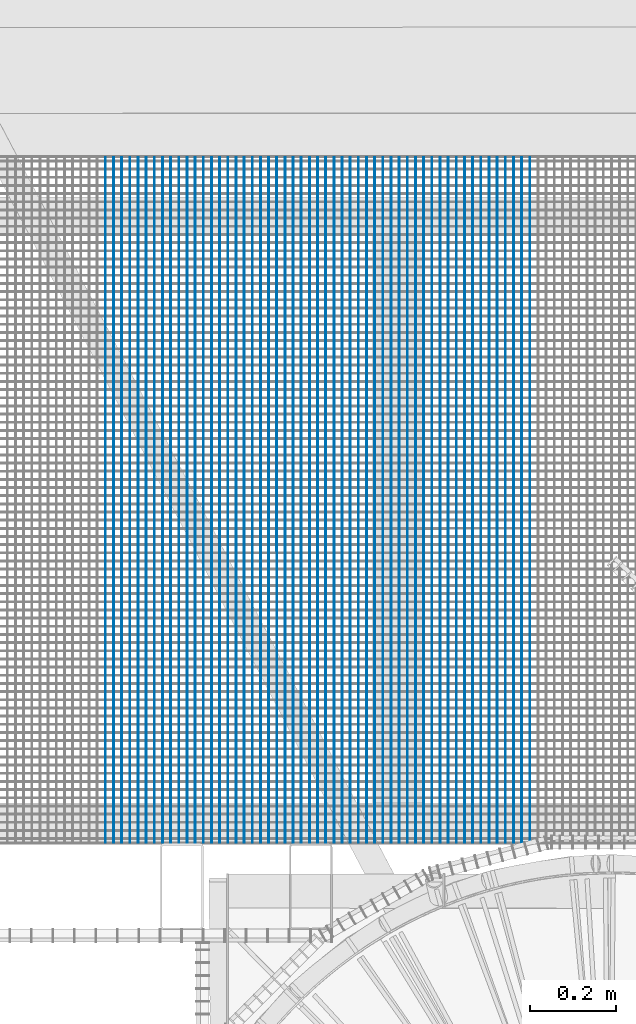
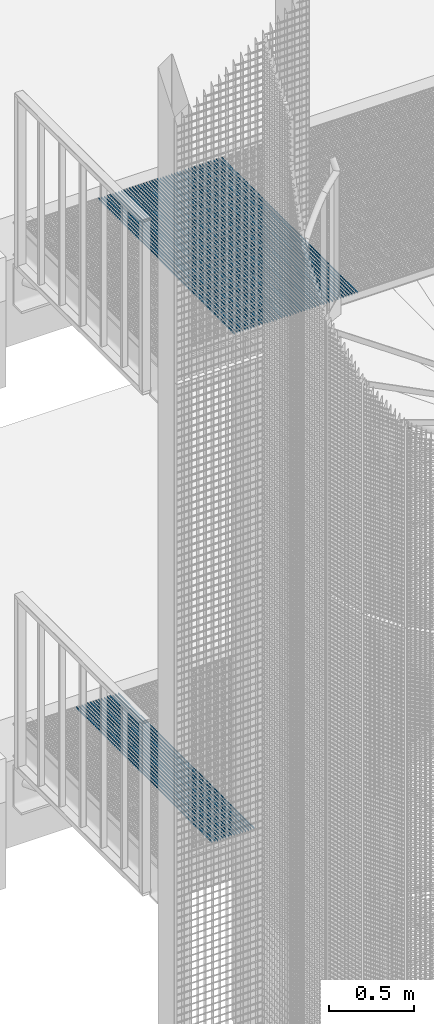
# One storey, part 95 of 1183: 61 beams, 2 elements without a shape of their own.
"""IFC2X3 building model written with IfcOpenShell, lengths in millimetres."""

from ifc_helpers import new_model, si_unit, frame, origin_with_axes, origin_2d_with_axis, place, context, subcontext, project, spatial, rectangle, extrude, material, type_object, element, aggregate, save


model = new_model("IFC2X3")

# Units and contexts
model_context = context("Model", 3, precision=1e-05, world=origin_with_axes())
body_context = subcontext(model_context, "Body", "Model", "MODEL_VIEW")
ifc_project = project(units=[si_unit("LENGTHUNIT", "METRE", prefix="MILLI"), si_unit("AREAUNIT", "SQUARE_METRE"), si_unit("VOLUMEUNIT", "CUBIC_METRE"), si_unit("MASSUNIT", "GRAM", prefix="KILO"), si_unit("TIMEUNIT", "SECOND"), si_unit("PLANEANGLEUNIT", "RADIAN"), si_unit("SOLIDANGLEUNIT", "STERADIAN"), si_unit("THERMODYNAMICTEMPERATUREUNIT", "DEGREE_CELSIUS"), si_unit("LUMINOUSINTENSITYUNIT", "LUMEN")], contexts=[model_context])

# Site, building, storey
site_placement = place(None, origin_with_axes())
site = spatial("IfcSite", under=ifc_project, at=site_placement, Name="Undefined", CompositionType="ELEMENT")
building_placement = place(site_placement, origin_with_axes())
building = spatial("IfcBuilding", under=site, at=building_placement, Name="Undefined", CompositionType="ELEMENT")
storey_placement = place(building_placement, origin_with_axes())
storey = spatial("IfcBuildingStorey", under=building, at=storey_placement, Name="Undefined", CompositionType="ELEMENT", Elevation=0.0)

# Assembly, beams
assembly_1_placement = place(storey_placement, origin_with_axes())
assembly_1 = element("IfcElementAssembly", 1, at=assembly_1_placement, inside=storey, Name="BORDURE", AssemblyPlace="NOTDEFINED", PredefinedType="NOTDEFINED")
ifc_material = material(Name="STEEL/S235JR")
beam_type = type_object("IfcBeamType", Name="PL2*10", PredefinedType="NOTDEFINED")
beam_1_placement = place(assembly_1_placement, frame((20574.1154247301, 1101.99726905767, 10085.0), z_axis=(0.0, 0.0, 1.0), x_axis=(-4.50599999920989e-06, 0.999999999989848, 0.0)))
beam_1 = element("IfcBeam", 2, at=beam_1_placement, type_object=beam_type, material=ifc_material, Name="ENTRETOISE", context=body_context, shape_type="SweptSolid", body=[
    extrude(rectangle(XDim=2.0, YDim=10.0, at=origin_2d_with_axis()), frame((1596.0000000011, -1.35186458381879e-18, -7.27595761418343e-12), z_axis=(-1.0, 0.0, 0.0), x_axis=(0.0, -1.0, 0.0)), (0.0, 0.0, 1.0), 1596.0),
])
beam_2_placement = place(assembly_1_placement, frame((20593.1154247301, 1101.99736257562, 10085.0), z_axis=(0.0, 0.0, 1.0), x_axis=(-4.50599999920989e-06, 0.999999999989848, 0.0)))
beam_2 = element("IfcBeam", 3, at=beam_2_placement, type_object=beam_type, material=ifc_material, Name="ENTRETOISE", context=body_context, shape_type="SweptSolid", body=[
    extrude(rectangle(XDim=2.0, YDim=10.0, at=origin_2d_with_axis()), frame((1596.0000000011, -1.35186458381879e-18, -7.27595761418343e-12), z_axis=(-1.0, 0.0, 0.0), x_axis=(0.0, -1.0, 0.0)), (0.0, 0.0, 1.0), 1596.0),
])
beam_3_placement = place(assembly_1_placement, frame((20612.11542473, 1101.99745609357, 10085.0), z_axis=(0.0, 0.0, 1.0), x_axis=(-4.50599999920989e-06, 0.999999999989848, 0.0)))
beam_3 = element("IfcBeam", 4, at=beam_3_placement, type_object=beam_type, material=ifc_material, Name="ENTRETOISE", context=body_context, shape_type="SweptSolid", body=[
    extrude(rectangle(XDim=2.0, YDim=10.0, at=origin_2d_with_axis()), frame((1596.0000000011, -1.35186458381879e-18, -7.27595761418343e-12), z_axis=(-1.0, 0.0, 0.0), x_axis=(0.0, -1.0, 0.0)), (0.0, 0.0, 1.0), 1596.0),
])
beam_4_placement = place(assembly_1_placement, frame((20631.1154247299, 1101.99754961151, 10085.0), z_axis=(0.0, 0.0, 1.0), x_axis=(-4.50599999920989e-06, 0.999999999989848, 0.0)))
beam_4 = element("IfcBeam", 5, at=beam_4_placement, type_object=beam_type, material=ifc_material, Name="ENTRETOISE", context=body_context, shape_type="SweptSolid", body=[
    extrude(rectangle(XDim=2.0, YDim=10.0, at=origin_2d_with_axis()), frame((1596.0000000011, -1.35186458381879e-18, -7.27595761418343e-12), z_axis=(-1.0, 0.0, 0.0), x_axis=(0.0, -1.0, 0.0)), (0.0, 0.0, 1.0), 1596.0),
])
beam_5_placement = place(assembly_1_placement, frame((20650.1154247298, 1101.99764312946, 10085.0), z_axis=(0.0, 0.0, 1.0), x_axis=(-4.50599999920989e-06, 0.999999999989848, 0.0)))
beam_5 = element("IfcBeam", 6, at=beam_5_placement, type_object=beam_type, material=ifc_material, Name="ENTRETOISE", context=body_context, shape_type="SweptSolid", body=[
    extrude(rectangle(XDim=2.0, YDim=10.0, at=origin_2d_with_axis()), frame((1596.0000000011, -1.35186458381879e-18, -7.27595761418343e-12), z_axis=(-1.0, 0.0, 0.0), x_axis=(0.0, -1.0, 0.0)), (0.0, 0.0, 1.0), 1596.0),
])
beam_6_placement = place(assembly_1_placement, frame((20669.1154247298, 1101.99773664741, 10085.0), z_axis=(0.0, 0.0, 1.0), x_axis=(-4.50599999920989e-06, 0.999999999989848, 0.0)))
beam_6 = element("IfcBeam", 7, at=beam_6_placement, type_object=beam_type, material=ifc_material, Name="ENTRETOISE", context=body_context, shape_type="SweptSolid", body=[
    extrude(rectangle(XDim=2.0, YDim=10.0, at=origin_2d_with_axis()), frame((1596.0000000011, -1.35186458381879e-18, -7.27595761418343e-12), z_axis=(-1.0, 0.0, 0.0), x_axis=(0.0, -1.0, 0.0)), (0.0, 0.0, 1.0), 1596.0),
])
beam_7_placement = place(assembly_1_placement, frame((20688.1154247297, 1101.99783016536, 10085.0), z_axis=(0.0, 0.0, 1.0), x_axis=(-4.50599999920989e-06, 0.999999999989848, 0.0)))
beam_7 = element("IfcBeam", 8, at=beam_7_placement, type_object=beam_type, material=ifc_material, Name="ENTRETOISE", context=body_context, shape_type="SweptSolid", body=[
    extrude(rectangle(XDim=2.0, YDim=10.0, at=origin_2d_with_axis()), frame((1596.0000000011, -1.35186458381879e-18, -7.27595761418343e-12), z_axis=(-1.0, 0.0, 0.0), x_axis=(0.0, -1.0, 0.0)), (0.0, 0.0, 1.0), 1596.0),
])
beam_8_placement = place(assembly_1_placement, frame((20707.1154247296, 1101.99792368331, 10085.0), z_axis=(0.0, 0.0, 1.0), x_axis=(-4.50599999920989e-06, 0.999999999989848, 0.0)))
beam_8 = element("IfcBeam", 9, at=beam_8_placement, type_object=beam_type, material=ifc_material, Name="ENTRETOISE", context=body_context, shape_type="SweptSolid", body=[
    extrude(rectangle(XDim=2.0, YDim=10.0, at=origin_2d_with_axis()), frame((1596.0000000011, -1.35186458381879e-18, -7.27595761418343e-12), z_axis=(-1.0, 0.0, 0.0), x_axis=(0.0, -1.0, 0.0)), (0.0, 0.0, 1.0), 1596.0),
])
beam_9_placement = place(assembly_1_placement, frame((20726.1154247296, 1101.99801720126, 10085.0), z_axis=(0.0, 0.0, 1.0), x_axis=(-4.50599999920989e-06, 0.999999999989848, 0.0)))
beam_9 = element("IfcBeam", 10, at=beam_9_placement, type_object=beam_type, material=ifc_material, Name="ENTRETOISE", context=body_context, shape_type="SweptSolid", body=[
    extrude(rectangle(XDim=2.0, YDim=10.0, at=origin_2d_with_axis()), frame((1596.0000000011, -1.35186458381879e-18, -7.27595761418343e-12), z_axis=(-1.0, 0.0, 0.0), x_axis=(0.0, -1.0, 0.0)), (0.0, 0.0, 1.0), 1596.0),
])
beam_10_placement = place(assembly_1_placement, frame((20745.1154247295, 1101.99811071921, 10085.0), z_axis=(0.0, 0.0, 1.0), x_axis=(-4.50599999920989e-06, 0.999999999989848, 0.0)))
beam_10 = element("IfcBeam", 11, at=beam_10_placement, type_object=beam_type, material=ifc_material, Name="ENTRETOISE", context=body_context, shape_type="SweptSolid", body=[
    extrude(rectangle(XDim=2.0, YDim=10.0, at=origin_2d_with_axis()), frame((1596.0000000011, -1.35186458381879e-18, -7.27595761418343e-12), z_axis=(-1.0, 0.0, 0.0), x_axis=(0.0, -1.0, 0.0)), (0.0, 0.0, 1.0), 1596.0),
])
beam_11_placement = place(assembly_1_placement, frame((20764.1154247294, 1101.99820423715, 10085.0), z_axis=(0.0, 0.0, 1.0), x_axis=(-4.50599999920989e-06, 0.999999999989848, 0.0)))
beam_11 = element("IfcBeam", 12, at=beam_11_placement, type_object=beam_type, material=ifc_material, Name="ENTRETOISE", context=body_context, shape_type="SweptSolid", body=[
    extrude(rectangle(XDim=2.0, YDim=10.0, at=origin_2d_with_axis()), frame((1596.0000000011, -1.35186458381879e-18, -7.27595761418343e-12), z_axis=(-1.0, 0.0, 0.0), x_axis=(0.0, -1.0, 0.0)), (0.0, 0.0, 1.0), 1596.0),
])
beam_12_placement = place(assembly_1_placement, frame((20783.1154247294, 1101.9982977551, 10085.0), z_axis=(0.0, 0.0, 1.0), x_axis=(-4.50599999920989e-06, 0.999999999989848, 0.0)))
beam_12 = element("IfcBeam", 13, at=beam_12_placement, type_object=beam_type, material=ifc_material, Name="ENTRETOISE", context=body_context, shape_type="SweptSolid", body=[
    extrude(rectangle(XDim=2.0, YDim=10.0, at=origin_2d_with_axis()), frame((1596.0000000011, -1.35186458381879e-18, -7.27595761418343e-12), z_axis=(-1.0, 0.0, 0.0), x_axis=(0.0, -1.0, 0.0)), (0.0, 0.0, 1.0), 1596.0),
])
beam_13_placement = place(assembly_1_placement, frame((20802.1154247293, 1101.99839127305, 10085.0), z_axis=(0.0, 0.0, 1.0), x_axis=(-4.50599999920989e-06, 0.999999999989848, 0.0)))
beam_13 = element("IfcBeam", 14, at=beam_13_placement, type_object=beam_type, material=ifc_material, Name="ENTRETOISE", context=body_context, shape_type="SweptSolid", body=[
    extrude(rectangle(XDim=2.0, YDim=10.0, at=origin_2d_with_axis()), frame((1596.0000000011, -1.35186458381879e-18, -7.27595761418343e-12), z_axis=(-1.0, 0.0, 0.0), x_axis=(0.0, -1.0, 0.0)), (0.0, 0.0, 1.0), 1596.0),
])
beam_14_placement = place(assembly_1_placement, frame((20821.1154247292, 1101.998484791, 10085.0), z_axis=(0.0, 0.0, 1.0), x_axis=(-4.50599999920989e-06, 0.999999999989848, 0.0)))
beam_14 = element("IfcBeam", 15, at=beam_14_placement, type_object=beam_type, material=ifc_material, Name="ENTRETOISE", context=body_context, shape_type="SweptSolid", body=[
    extrude(rectangle(XDim=2.0, YDim=10.0, at=origin_2d_with_axis()), frame((1596.0000000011, -1.35186458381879e-18, -7.27595761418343e-12), z_axis=(-1.0, 0.0, 0.0), x_axis=(0.0, -1.0, 0.0)), (0.0, 0.0, 1.0), 1596.0),
])
beam_15_placement = place(assembly_1_placement, frame((20840.1154247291, 1101.99857830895, 10085.0), z_axis=(0.0, 0.0, 1.0), x_axis=(-4.50599999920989e-06, 0.999999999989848, 0.0)))
beam_15 = element("IfcBeam", 16, at=beam_15_placement, type_object=beam_type, material=ifc_material, Name="ENTRETOISE", context=body_context, shape_type="SweptSolid", body=[
    extrude(rectangle(XDim=2.0, YDim=10.0, at=origin_2d_with_axis()), frame((1596.0000000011, -1.35186458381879e-18, -7.27595761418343e-12), z_axis=(-1.0, 0.0, 0.0), x_axis=(0.0, -1.0, 0.0)), (0.0, 0.0, 1.0), 1596.0),
])
beam_16_placement = place(assembly_1_placement, frame((20859.1154247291, 1101.9986718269, 10085.0), z_axis=(0.0, 0.0, 1.0), x_axis=(-4.50599999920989e-06, 0.999999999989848, 0.0)))
beam_16 = element("IfcBeam", 17, at=beam_16_placement, type_object=beam_type, material=ifc_material, Name="ENTRETOISE", context=body_context, shape_type="SweptSolid", body=[
    extrude(rectangle(XDim=2.0, YDim=10.0, at=origin_2d_with_axis()), frame((1596.0000000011, -1.35186458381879e-18, -7.27595761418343e-12), z_axis=(-1.0, 0.0, 0.0), x_axis=(0.0, -1.0, 0.0)), (0.0, 0.0, 1.0), 1596.0),
])
beam_17_placement = place(assembly_1_placement, frame((20878.115424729, 1101.99876534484, 10085.0), z_axis=(0.0, 0.0, 1.0), x_axis=(-4.50599999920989e-06, 0.999999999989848, 0.0)))
beam_17 = element("IfcBeam", 18, at=beam_17_placement, type_object=beam_type, material=ifc_material, Name="ENTRETOISE", context=body_context, shape_type="SweptSolid", body=[
    extrude(rectangle(XDim=2.0, YDim=10.0, at=origin_2d_with_axis()), frame((1596.0000000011, -1.35186458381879e-18, -7.27595761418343e-12), z_axis=(-1.0, 0.0, 0.0), x_axis=(0.0, -1.0, 0.0)), (0.0, 0.0, 1.0), 1596.0),
])
beam_18_placement = place(assembly_1_placement, frame((20897.1154247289, 1101.99885886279, 10085.0), z_axis=(0.0, 0.0, 1.0), x_axis=(-4.50599999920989e-06, 0.999999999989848, 0.0)))
beam_18 = element("IfcBeam", 19, at=beam_18_placement, type_object=beam_type, material=ifc_material, Name="ENTRETOISE", context=body_context, shape_type="SweptSolid", body=[
    extrude(rectangle(XDim=2.0, YDim=10.0, at=origin_2d_with_axis()), frame((1596.0000000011, -1.35186458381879e-18, -7.27595761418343e-12), z_axis=(-1.0, 0.0, 0.0), x_axis=(0.0, -1.0, 0.0)), (0.0, 0.0, 1.0), 1596.0),
])
beam_19_placement = place(assembly_1_placement, frame((20916.1154247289, 1101.99895238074, 10085.0), z_axis=(0.0, 0.0, 1.0), x_axis=(-4.50599999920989e-06, 0.999999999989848, 0.0)))
beam_19 = element("IfcBeam", 20, at=beam_19_placement, type_object=beam_type, material=ifc_material, Name="ENTRETOISE", context=body_context, shape_type="SweptSolid", body=[
    extrude(rectangle(XDim=2.0, YDim=10.0, at=origin_2d_with_axis()), frame((1596.0000000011, -1.35186458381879e-18, -7.27595761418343e-12), z_axis=(-1.0, 0.0, 0.0), x_axis=(0.0, -1.0, 0.0)), (0.0, 0.0, 1.0), 1596.0),
])
beam_20_placement = place(assembly_1_placement, frame((20935.1154247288, 1101.99904589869, 10085.0), z_axis=(0.0, 0.0, 1.0), x_axis=(-4.50599999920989e-06, 0.999999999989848, 0.0)))
beam_20 = element("IfcBeam", 21, at=beam_20_placement, type_object=beam_type, material=ifc_material, Name="ENTRETOISE", context=body_context, shape_type="SweptSolid", body=[
    extrude(rectangle(XDim=2.0, YDim=10.0, at=origin_2d_with_axis()), frame((1596.0000000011, -1.35186458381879e-18, -7.27595761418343e-12), z_axis=(-1.0, 0.0, 0.0), x_axis=(0.0, -1.0, 0.0)), (0.0, 0.0, 1.0), 1596.0),
])
beam_21_placement = place(assembly_1_placement, frame((20954.1154247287, 1101.99913941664, 10085.0), z_axis=(0.0, 0.0, 1.0), x_axis=(-4.50599999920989e-06, 0.999999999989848, 0.0)))
beam_21 = element("IfcBeam", 22, at=beam_21_placement, type_object=beam_type, material=ifc_material, Name="ENTRETOISE", context=body_context, shape_type="SweptSolid", body=[
    extrude(rectangle(XDim=2.0, YDim=10.0, at=origin_2d_with_axis()), frame((1596.0000000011, -1.35186458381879e-18, -7.27595761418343e-12), z_axis=(-1.0, 0.0, 0.0), x_axis=(0.0, -1.0, 0.0)), (0.0, 0.0, 1.0), 1596.0),
])
beam_22_placement = place(assembly_1_placement, frame((20973.1154247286, 1101.99923293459, 10085.0), z_axis=(0.0, 0.0, 1.0), x_axis=(-4.50599999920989e-06, 0.999999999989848, 0.0)))
beam_22 = element("IfcBeam", 23, at=beam_22_placement, type_object=beam_type, material=ifc_material, Name="ENTRETOISE", context=body_context, shape_type="SweptSolid", body=[
    extrude(rectangle(XDim=2.0, YDim=10.0, at=origin_2d_with_axis()), frame((1596.0000000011, -1.35186458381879e-18, -7.27595761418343e-12), z_axis=(-1.0, 0.0, 0.0), x_axis=(0.0, -1.0, 0.0)), (0.0, 0.0, 1.0), 1596.0),
])
beam_23_placement = place(assembly_1_placement, frame((20992.1154247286, 1101.99932645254, 10085.0), z_axis=(0.0, 0.0, 1.0), x_axis=(-4.50599999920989e-06, 0.999999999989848, 0.0)))
beam_23 = element("IfcBeam", 24, at=beam_23_placement, type_object=beam_type, material=ifc_material, Name="ENTRETOISE", context=body_context, shape_type="SweptSolid", body=[
    extrude(rectangle(XDim=2.0, YDim=10.0, at=origin_2d_with_axis()), frame((1596.0000000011, -1.35186458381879e-18, -7.27595761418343e-12), z_axis=(-1.0, 0.0, 0.0), x_axis=(0.0, -1.0, 0.0)), (0.0, 0.0, 1.0), 1596.0),
])
beam_24_placement = place(assembly_1_placement, frame((21011.1154247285, 1101.99941997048, 10085.0), z_axis=(0.0, 0.0, 1.0), x_axis=(-4.50599999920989e-06, 0.999999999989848, 0.0)))
beam_24 = element("IfcBeam", 25, at=beam_24_placement, type_object=beam_type, material=ifc_material, Name="ENTRETOISE", context=body_context, shape_type="SweptSolid", body=[
    extrude(rectangle(XDim=2.0, YDim=10.0, at=origin_2d_with_axis()), frame((1596.0000000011, -1.35186458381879e-18, -7.27595761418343e-12), z_axis=(-1.0, 0.0, 0.0), x_axis=(0.0, -1.0, 0.0)), (0.0, 0.0, 1.0), 1596.0),
])
beam_25_placement = place(assembly_1_placement, frame((21030.1154247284, 1101.99951348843, 10085.0), z_axis=(0.0, 0.0, 1.0), x_axis=(-4.50599999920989e-06, 0.999999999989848, 0.0)))
beam_25 = element("IfcBeam", 26, at=beam_25_placement, type_object=beam_type, material=ifc_material, Name="ENTRETOISE", context=body_context, shape_type="SweptSolid", body=[
    extrude(rectangle(XDim=2.0, YDim=10.0, at=origin_2d_with_axis()), frame((1596.0000000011, -1.35186458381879e-18, -7.27595761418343e-12), z_axis=(-1.0, 0.0, 0.0), x_axis=(0.0, -1.0, 0.0)), (0.0, 0.0, 1.0), 1596.0),
])
beam_26_placement = place(assembly_1_placement, frame((21049.1154247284, 1101.99960700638, 10085.0), z_axis=(0.0, 0.0, 1.0), x_axis=(-4.50599999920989e-06, 0.999999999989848, 0.0)))
beam_26 = element("IfcBeam", 27, at=beam_26_placement, type_object=beam_type, material=ifc_material, Name="ENTRETOISE", context=body_context, shape_type="SweptSolid", body=[
    extrude(rectangle(XDim=2.0, YDim=10.0, at=origin_2d_with_axis()), frame((1596.0000000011, -1.35186458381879e-18, -7.27595761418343e-12), z_axis=(-1.0, 0.0, 0.0), x_axis=(0.0, -1.0, 0.0)), (0.0, 0.0, 1.0), 1596.0),
])
beam_27_placement = place(assembly_1_placement, frame((21068.1154247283, 1101.99970052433, 10085.0), z_axis=(0.0, 0.0, 1.0), x_axis=(-4.50599999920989e-06, 0.999999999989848, 0.0)))
beam_27 = element("IfcBeam", 28, at=beam_27_placement, type_object=beam_type, material=ifc_material, Name="ENTRETOISE", context=body_context, shape_type="SweptSolid", body=[
    extrude(rectangle(XDim=2.0, YDim=10.0, at=origin_2d_with_axis()), frame((1596.0000000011, -1.35186458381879e-18, -7.27595761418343e-12), z_axis=(-1.0, 0.0, 0.0), x_axis=(0.0, -1.0, 0.0)), (0.0, 0.0, 1.0), 1596.0),
])
beam_28_placement = place(assembly_1_placement, frame((21087.1154247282, 1101.99979404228, 10085.0), z_axis=(0.0, 0.0, 1.0), x_axis=(-4.50599999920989e-06, 0.999999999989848, 0.0)))
beam_28 = element("IfcBeam", 29, at=beam_28_placement, type_object=beam_type, material=ifc_material, Name="ENTRETOISE", context=body_context, shape_type="SweptSolid", body=[
    extrude(rectangle(XDim=2.0, YDim=10.0, at=origin_2d_with_axis()), frame((1596.0000000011, -1.35186458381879e-18, -7.27595761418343e-12), z_axis=(-1.0, 0.0, 0.0), x_axis=(0.0, -1.0, 0.0)), (0.0, 0.0, 1.0), 1596.0),
])
beam_29_placement = place(assembly_1_placement, frame((21106.1154247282, 1101.99988756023, 10085.0), z_axis=(0.0, 0.0, 1.0), x_axis=(-4.50599999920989e-06, 0.999999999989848, 0.0)))
beam_29 = element("IfcBeam", 30, at=beam_29_placement, type_object=beam_type, material=ifc_material, Name="ENTRETOISE", context=body_context, shape_type="SweptSolid", body=[
    extrude(rectangle(XDim=2.0, YDim=10.0, at=origin_2d_with_axis()), frame((1596.0000000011, -1.35186458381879e-18, -7.27595761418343e-12), z_axis=(-1.0, 0.0, 0.0), x_axis=(0.0, -1.0, 0.0)), (0.0, 0.0, 1.0), 1596.0),
])
beam_30_placement = place(assembly_1_placement, frame((21125.1154247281, 1101.99998107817, 10085.0), z_axis=(0.0, 0.0, 1.0), x_axis=(-4.50599999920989e-06, 0.999999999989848, 0.0)))
beam_30 = element("IfcBeam", 31, at=beam_30_placement, type_object=beam_type, material=ifc_material, Name="ENTRETOISE", context=body_context, shape_type="SweptSolid", body=[
    extrude(rectangle(XDim=2.0, YDim=10.0, at=origin_2d_with_axis()), frame((1596.0000000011, -1.35186458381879e-18, -7.27595761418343e-12), z_axis=(-1.0, 0.0, 0.0), x_axis=(0.0, -1.0, 0.0)), (0.0, 0.0, 1.0), 1596.0),
])
beam_31_placement = place(assembly_1_placement, frame((21144.115424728, 1102.00007459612, 10085.0), z_axis=(0.0, 0.0, 1.0), x_axis=(-4.50599999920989e-06, 0.999999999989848, 0.0)))
beam_31 = element("IfcBeam", 32, at=beam_31_placement, type_object=beam_type, material=ifc_material, Name="ENTRETOISE", context=body_context, shape_type="SweptSolid", body=[
    extrude(rectangle(XDim=2.0, YDim=10.0, at=origin_2d_with_axis()), frame((1596.0000000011, -1.35186458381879e-18, -7.27595761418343e-12), z_axis=(-1.0, 0.0, 0.0), x_axis=(0.0, -1.0, 0.0)), (0.0, 0.0, 1.0), 1596.0),
])
beam_32_placement = place(assembly_1_placement, frame((21163.1154247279, 1102.00016811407, 10085.0), z_axis=(0.0, 0.0, 1.0), x_axis=(-4.50599999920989e-06, 0.999999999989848, 0.0)))
beam_32 = element("IfcBeam", 33, at=beam_32_placement, type_object=beam_type, material=ifc_material, Name="ENTRETOISE", context=body_context, shape_type="SweptSolid", body=[
    extrude(rectangle(XDim=2.0, YDim=10.0, at=origin_2d_with_axis()), frame((1596.0000000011, -1.35186458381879e-18, -7.27595761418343e-12), z_axis=(-1.0, 0.0, 0.0), x_axis=(0.0, -1.0, 0.0)), (0.0, 0.0, 1.0), 1596.0),
])
beam_33_placement = place(assembly_1_placement, frame((21182.1154247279, 1102.00026163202, 10085.0), z_axis=(0.0, 0.0, 1.0), x_axis=(-4.50599999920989e-06, 0.999999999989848, 0.0)))
beam_33 = element("IfcBeam", 34, at=beam_33_placement, type_object=beam_type, material=ifc_material, Name="ENTRETOISE", context=body_context, shape_type="SweptSolid", body=[
    extrude(rectangle(XDim=2.0, YDim=10.0, at=origin_2d_with_axis()), frame((1596.0000000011, -1.35186458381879e-18, -7.27595761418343e-12), z_axis=(-1.0, 0.0, 0.0), x_axis=(0.0, -1.0, 0.0)), (0.0, 0.0, 1.0), 1596.0),
])
beam_34_placement = place(assembly_1_placement, frame((21201.1154247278, 1102.00035514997, 10085.0), z_axis=(0.0, 0.0, 1.0), x_axis=(-4.50599999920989e-06, 0.999999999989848, 0.0)))
beam_34 = element("IfcBeam", 35, at=beam_34_placement, type_object=beam_type, material=ifc_material, Name="ENTRETOISE", context=body_context, shape_type="SweptSolid", body=[
    extrude(rectangle(XDim=2.0, YDim=10.0, at=origin_2d_with_axis()), frame((1596.0000000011, -1.35186458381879e-18, -7.27595761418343e-12), z_axis=(-1.0, 0.0, 0.0), x_axis=(0.0, -1.0, 0.0)), (0.0, 0.0, 1.0), 1596.0),
])
beam_35_placement = place(assembly_1_placement, frame((21220.1154247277, 1102.00044866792, 10085.0), z_axis=(0.0, 0.0, 1.0), x_axis=(-4.50599999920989e-06, 0.999999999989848, 0.0)))
beam_35 = element("IfcBeam", 36, at=beam_35_placement, type_object=beam_type, material=ifc_material, Name="ENTRETOISE", context=body_context, shape_type="SweptSolid", body=[
    extrude(rectangle(XDim=2.0, YDim=10.0, at=origin_2d_with_axis()), frame((1596.0000000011, -1.35186458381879e-18, -7.27595761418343e-12), z_axis=(-1.0, 0.0, 0.0), x_axis=(0.0, -1.0, 0.0)), (0.0, 0.0, 1.0), 1596.0),
])
beam_36_placement = place(assembly_1_placement, frame((21239.1154247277, 1102.00054218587, 10085.0), z_axis=(0.0, 0.0, 1.0), x_axis=(-4.50599999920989e-06, 0.999999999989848, 0.0)))
beam_36 = element("IfcBeam", 37, at=beam_36_placement, type_object=beam_type, material=ifc_material, Name="ENTRETOISE", context=body_context, shape_type="SweptSolid", body=[
    extrude(rectangle(XDim=2.0, YDim=10.0, at=origin_2d_with_axis()), frame((1596.0000000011, -1.35186458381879e-18, -7.27595761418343e-12), z_axis=(-1.0, 0.0, 0.0), x_axis=(0.0, -1.0, 0.0)), (0.0, 0.0, 1.0), 1596.0),
])
beam_37_placement = place(assembly_1_placement, frame((21258.1154247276, 1102.00063570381, 10085.0), z_axis=(0.0, 0.0, 1.0), x_axis=(-4.50599999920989e-06, 0.999999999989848, 0.0)))
beam_37 = element("IfcBeam", 38, at=beam_37_placement, type_object=beam_type, material=ifc_material, Name="ENTRETOISE", context=body_context, shape_type="SweptSolid", body=[
    extrude(rectangle(XDim=2.0, YDim=10.0, at=origin_2d_with_axis()), frame((1596.0000000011, -1.35186458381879e-18, -7.27595761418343e-12), z_axis=(-1.0, 0.0, 0.0), x_axis=(0.0, -1.0, 0.0)), (0.0, 0.0, 1.0), 1596.0),
])
beam_38_placement = place(assembly_1_placement, frame((21277.1154247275, 1102.00072922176, 10085.0), z_axis=(0.0, 0.0, 1.0), x_axis=(-4.50599999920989e-06, 0.999999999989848, 0.0)))
beam_38 = element("IfcBeam", 39, at=beam_38_placement, type_object=beam_type, material=ifc_material, Name="ENTRETOISE", context=body_context, shape_type="SweptSolid", body=[
    extrude(rectangle(XDim=2.0, YDim=10.0, at=origin_2d_with_axis()), frame((1596.0000000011, -1.35186458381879e-18, -7.27595761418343e-12), z_axis=(-1.0, 0.0, 0.0), x_axis=(0.0, -1.0, 0.0)), (0.0, 0.0, 1.0), 1596.0),
])
beam_39_placement = place(assembly_1_placement, frame((21296.1154247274, 1102.00082273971, 10085.0), z_axis=(0.0, 0.0, 1.0), x_axis=(-4.50599999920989e-06, 0.999999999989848, 0.0)))
beam_39 = element("IfcBeam", 40, at=beam_39_placement, type_object=beam_type, material=ifc_material, Name="ENTRETOISE", context=body_context, shape_type="SweptSolid", body=[
    extrude(rectangle(XDim=2.0, YDim=10.0, at=origin_2d_with_axis()), frame((1596.0000000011, -1.35186458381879e-18, -7.27595761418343e-12), z_axis=(-1.0, 0.0, 0.0), x_axis=(0.0, -1.0, 0.0)), (0.0, 0.0, 1.0), 1596.0),
])
beam_40_placement = place(assembly_1_placement, frame((21315.1154247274, 1102.00091625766, 10085.0), z_axis=(0.0, 0.0, 1.0), x_axis=(-4.50599999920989e-06, 0.999999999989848, 0.0)))
beam_40 = element("IfcBeam", 41, at=beam_40_placement, type_object=beam_type, material=ifc_material, Name="ENTRETOISE", context=body_context, shape_type="SweptSolid", body=[
    extrude(rectangle(XDim=2.0, YDim=10.0, at=origin_2d_with_axis()), frame((1596.0000000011, -1.35186458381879e-18, -7.27595761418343e-12), z_axis=(-1.0, 0.0, 0.0), x_axis=(0.0, -1.0, 0.0)), (0.0, 0.0, 1.0), 1596.0),
])
beam_41_placement = place(assembly_1_placement, frame((21334.1154247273, 1102.00100977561, 10085.0), z_axis=(0.0, 0.0, 1.0), x_axis=(-4.50599999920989e-06, 0.999999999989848, 0.0)))
beam_41 = element("IfcBeam", 42, at=beam_41_placement, type_object=beam_type, material=ifc_material, Name="ENTRETOISE", context=body_context, shape_type="SweptSolid", body=[
    extrude(rectangle(XDim=2.0, YDim=10.0, at=origin_2d_with_axis()), frame((1596.0000000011, -1.35186458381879e-18, -7.27595761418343e-12), z_axis=(-1.0, 0.0, 0.0), x_axis=(0.0, -1.0, 0.0)), (0.0, 0.0, 1.0), 1596.0),
])
beam_42_placement = place(assembly_1_placement, frame((21353.1154247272, 1102.00110329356, 10085.0), z_axis=(0.0, 0.0, 1.0), x_axis=(-4.50599999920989e-06, 0.999999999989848, 0.0)))
beam_42 = element("IfcBeam", 43, at=beam_42_placement, type_object=beam_type, material=ifc_material, Name="ENTRETOISE", context=body_context, shape_type="SweptSolid", body=[
    extrude(rectangle(XDim=2.0, YDim=10.0, at=origin_2d_with_axis()), frame((1596.0000000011, -1.35186458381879e-18, -7.27595761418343e-12), z_axis=(-1.0, 0.0, 0.0), x_axis=(0.0, -1.0, 0.0)), (0.0, 0.0, 1.0), 1596.0),
])
beam_43_placement = place(assembly_1_placement, frame((21372.1154247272, 1102.0011968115, 10085.0), z_axis=(0.0, 0.0, 1.0), x_axis=(-4.50599999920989e-06, 0.999999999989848, 0.0)))
beam_43 = element("IfcBeam", 44, at=beam_43_placement, type_object=beam_type, material=ifc_material, Name="ENTRETOISE", context=body_context, shape_type="SweptSolid", body=[
    extrude(rectangle(XDim=2.0, YDim=10.0, at=origin_2d_with_axis()), frame((1596.0000000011, -1.35186458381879e-18, -7.27595761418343e-12), z_axis=(-1.0, 0.0, 0.0), x_axis=(0.0, -1.0, 0.0)), (0.0, 0.0, 1.0), 1596.0),
])
beam_44_placement = place(assembly_1_placement, frame((21391.1154247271, 1102.00129032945, 10085.0), z_axis=(0.0, 0.0, 1.0), x_axis=(-4.50599999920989e-06, 0.999999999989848, 0.0)))
beam_44 = element("IfcBeam", 45, at=beam_44_placement, type_object=beam_type, material=ifc_material, Name="ENTRETOISE", context=body_context, shape_type="SweptSolid", body=[
    extrude(rectangle(XDim=2.0, YDim=10.0, at=origin_2d_with_axis()), frame((1596.0000000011, -1.35186458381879e-18, -7.27595761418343e-12), z_axis=(-1.0, 0.0, 0.0), x_axis=(0.0, -1.0, 0.0)), (0.0, 0.0, 1.0), 1596.0),
])
beam_45_placement = place(assembly_1_placement, frame((21410.115424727, 1102.0013838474, 10085.0), z_axis=(0.0, 0.0, 1.0), x_axis=(-4.50599999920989e-06, 0.999999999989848, 0.0)))
beam_45 = element("IfcBeam", 46, at=beam_45_placement, type_object=beam_type, material=ifc_material, Name="ENTRETOISE", context=body_context, shape_type="SweptSolid", body=[
    extrude(rectangle(XDim=2.0, YDim=10.0, at=origin_2d_with_axis()), frame((1596.0000000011, -1.35186458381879e-18, -7.27595761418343e-12), z_axis=(-1.0, 0.0, 0.0), x_axis=(0.0, -1.0, 0.0)), (0.0, 0.0, 1.0), 1596.0),
])
aggregate(assembly_1, [beam_1, beam_2, beam_3, beam_4, beam_5, beam_6, beam_7, beam_8, beam_9, beam_10, beam_11, beam_12, beam_13, beam_14, beam_15, beam_16, beam_17, beam_18, beam_19, beam_20, beam_21, beam_22, beam_23, beam_24, beam_25, beam_26, beam_27, beam_28, beam_29, beam_30, beam_31, beam_32, beam_33, beam_34, beam_35, beam_36, beam_37, beam_38, beam_39, beam_40, beam_41, beam_42, beam_43, beam_44, beam_45])

assembly_2_placement = place(storey_placement, origin_with_axes())
assembly_2 = element("IfcElementAssembly", 47, at=assembly_2_placement, inside=storey, Name="BORDURE", AssemblyPlace="NOTDEFINED", PredefinedType="NOTDEFINED")
beam_46_placement = place(assembly_2_placement, frame((20422.1154247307, 1101.99652091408, 6485.0), z_axis=(0.0, 0.0, 1.0), x_axis=(-4.50599999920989e-06, 0.999999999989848, 0.0)))
beam_46 = element("IfcBeam", 48, at=beam_46_placement, type_object=beam_type, material=ifc_material, Name="ENTRETOISE", context=body_context, shape_type="SweptSolid", body=[
    extrude(rectangle(XDim=2.0, YDim=10.0, at=origin_2d_with_axis()), frame((1596.0000000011, -1.35186458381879e-18, -7.27595761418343e-12), z_axis=(-1.0, 0.0, 0.0), x_axis=(0.0, -1.0, 0.0)), (0.0, 0.0, 1.0), 1596.0),
])
beam_47_placement = place(assembly_2_placement, frame((20441.1154247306, 1101.99661443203, 6485.0), z_axis=(0.0, 0.0, 1.0), x_axis=(-4.50599999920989e-06, 0.999999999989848, 0.0)))
beam_47 = element("IfcBeam", 49, at=beam_47_placement, type_object=beam_type, material=ifc_material, Name="ENTRETOISE", context=body_context, shape_type="SweptSolid", body=[
    extrude(rectangle(XDim=2.0, YDim=10.0, at=origin_2d_with_axis()), frame((1596.0000000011, -1.35186458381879e-18, -7.27595761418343e-12), z_axis=(-1.0, 0.0, 0.0), x_axis=(0.0, -1.0, 0.0)), (0.0, 0.0, 1.0), 1596.0),
])
beam_48_placement = place(assembly_2_placement, frame((20460.1154247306, 1101.99670794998, 6485.0), z_axis=(0.0, 0.0, 1.0), x_axis=(-4.50599999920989e-06, 0.999999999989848, 0.0)))
beam_48 = element("IfcBeam", 50, at=beam_48_placement, type_object=beam_type, material=ifc_material, Name="ENTRETOISE", context=body_context, shape_type="SweptSolid", body=[
    extrude(rectangle(XDim=2.0, YDim=10.0, at=origin_2d_with_axis()), frame((1596.0000000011, -1.35186458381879e-18, -7.27595761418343e-12), z_axis=(-1.0, 0.0, 0.0), x_axis=(0.0, -1.0, 0.0)), (0.0, 0.0, 1.0), 1596.0),
])
beam_49_placement = place(assembly_2_placement, frame((20479.1154247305, 1101.99680146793, 6485.0), z_axis=(0.0, 0.0, 1.0), x_axis=(-4.50599999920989e-06, 0.999999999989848, 0.0)))
beam_49 = element("IfcBeam", 51, at=beam_49_placement, type_object=beam_type, material=ifc_material, Name="ENTRETOISE", context=body_context, shape_type="SweptSolid", body=[
    extrude(rectangle(XDim=2.0, YDim=10.0, at=origin_2d_with_axis()), frame((1596.0000000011, -1.35186458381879e-18, -7.27595761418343e-12), z_axis=(-1.0, 0.0, 0.0), x_axis=(0.0, -1.0, 0.0)), (0.0, 0.0, 1.0), 1596.0),
])
beam_50_placement = place(assembly_2_placement, frame((20498.1154247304, 1101.99689498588, 6485.0), z_axis=(0.0, 0.0, 1.0), x_axis=(-4.50599999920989e-06, 0.999999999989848, 0.0)))
beam_50 = element("IfcBeam", 52, at=beam_50_placement, type_object=beam_type, material=ifc_material, Name="ENTRETOISE", context=body_context, shape_type="SweptSolid", body=[
    extrude(rectangle(XDim=2.0, YDim=10.0, at=origin_2d_with_axis()), frame((1596.0000000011, -1.35186458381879e-18, -7.27595761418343e-12), z_axis=(-1.0, 0.0, 0.0), x_axis=(0.0, -1.0, 0.0)), (0.0, 0.0, 1.0), 1596.0),
])
beam_51_placement = place(assembly_2_placement, frame((20517.1154247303, 1101.99698850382, 6485.0), z_axis=(0.0, 0.0, 1.0), x_axis=(-4.50599999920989e-06, 0.999999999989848, 0.0)))
beam_51 = element("IfcBeam", 53, at=beam_51_placement, type_object=beam_type, material=ifc_material, Name="ENTRETOISE", context=body_context, shape_type="SweptSolid", body=[
    extrude(rectangle(XDim=2.0, YDim=10.0, at=origin_2d_with_axis()), frame((1596.0000000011, -1.35186458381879e-18, -7.27595761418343e-12), z_axis=(-1.0, 0.0, 0.0), x_axis=(0.0, -1.0, 0.0)), (0.0, 0.0, 1.0), 1596.0),
])
beam_52_placement = place(assembly_2_placement, frame((20536.1154247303, 1101.99708202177, 6485.0), z_axis=(0.0, 0.0, 1.0), x_axis=(-4.50599999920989e-06, 0.999999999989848, 0.0)))
beam_52 = element("IfcBeam", 54, at=beam_52_placement, type_object=beam_type, material=ifc_material, Name="ENTRETOISE", context=body_context, shape_type="SweptSolid", body=[
    extrude(rectangle(XDim=2.0, YDim=10.0, at=origin_2d_with_axis()), frame((1596.0000000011, -1.35186458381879e-18, -7.27595761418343e-12), z_axis=(-1.0, 0.0, 0.0), x_axis=(0.0, -1.0, 0.0)), (0.0, 0.0, 1.0), 1596.0),
])
beam_53_placement = place(assembly_2_placement, frame((20555.1154247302, 1101.99717553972, 6485.0), z_axis=(0.0, 0.0, 1.0), x_axis=(-4.50599999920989e-06, 0.999999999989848, 0.0)))
beam_53 = element("IfcBeam", 55, at=beam_53_placement, type_object=beam_type, material=ifc_material, Name="ENTRETOISE", context=body_context, shape_type="SweptSolid", body=[
    extrude(rectangle(XDim=2.0, YDim=10.0, at=origin_2d_with_axis()), frame((1596.0000000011, -1.35186458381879e-18, -7.27595761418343e-12), z_axis=(-1.0, 0.0, 0.0), x_axis=(0.0, -1.0, 0.0)), (0.0, 0.0, 1.0), 1596.0),
])
beam_54_placement = place(assembly_2_placement, frame((20574.1154247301, 1101.99726905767, 6485.0), z_axis=(0.0, 0.0, 1.0), x_axis=(-4.50599999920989e-06, 0.999999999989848, 0.0)))
beam_54 = element("IfcBeam", 56, at=beam_54_placement, type_object=beam_type, material=ifc_material, Name="ENTRETOISE", context=body_context, shape_type="SweptSolid", body=[
    extrude(rectangle(XDim=2.0, YDim=10.0, at=origin_2d_with_axis()), frame((1596.0000000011, -1.35186458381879e-18, -7.27595761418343e-12), z_axis=(-1.0, 0.0, 0.0), x_axis=(0.0, -1.0, 0.0)), (0.0, 0.0, 1.0), 1596.0),
])
beam_55_placement = place(assembly_2_placement, frame((20593.1154247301, 1101.99736257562, 6485.0), z_axis=(0.0, 0.0, 1.0), x_axis=(-4.50599999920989e-06, 0.999999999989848, 0.0)))
beam_55 = element("IfcBeam", 57, at=beam_55_placement, type_object=beam_type, material=ifc_material, Name="ENTRETOISE", context=body_context, shape_type="SweptSolid", body=[
    extrude(rectangle(XDim=2.0, YDim=10.0, at=origin_2d_with_axis()), frame((1596.0000000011, -1.35186458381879e-18, -7.27595761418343e-12), z_axis=(-1.0, 0.0, 0.0), x_axis=(0.0, -1.0, 0.0)), (0.0, 0.0, 1.0), 1596.0),
])
beam_56_placement = place(assembly_2_placement, frame((20612.11542473, 1101.99745609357, 6485.0), z_axis=(0.0, 0.0, 1.0), x_axis=(-4.50599999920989e-06, 0.999999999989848, 0.0)))
beam_56 = element("IfcBeam", 58, at=beam_56_placement, type_object=beam_type, material=ifc_material, Name="ENTRETOISE", context=body_context, shape_type="SweptSolid", body=[
    extrude(rectangle(XDim=2.0, YDim=10.0, at=origin_2d_with_axis()), frame((1596.0000000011, -1.35186458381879e-18, -7.27595761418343e-12), z_axis=(-1.0, 0.0, 0.0), x_axis=(0.0, -1.0, 0.0)), (0.0, 0.0, 1.0), 1596.0),
])
beam_57_placement = place(assembly_2_placement, frame((20631.1154247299, 1101.99754961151, 6485.0), z_axis=(0.0, 0.0, 1.0), x_axis=(-4.50599999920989e-06, 0.999999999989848, 0.0)))
beam_57 = element("IfcBeam", 59, at=beam_57_placement, type_object=beam_type, material=ifc_material, Name="ENTRETOISE", context=body_context, shape_type="SweptSolid", body=[
    extrude(rectangle(XDim=2.0, YDim=10.0, at=origin_2d_with_axis()), frame((1596.0000000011, -1.35186458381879e-18, -7.27595761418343e-12), z_axis=(-1.0, 0.0, 0.0), x_axis=(0.0, -1.0, 0.0)), (0.0, 0.0, 1.0), 1596.0),
])
beam_58_placement = place(assembly_2_placement, frame((20650.1154247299, 1101.99764312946, 6485.0), z_axis=(0.0, 0.0, 1.0), x_axis=(-4.50599999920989e-06, 0.999999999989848, 0.0)))
beam_58 = element("IfcBeam", 60, at=beam_58_placement, type_object=beam_type, material=ifc_material, Name="ENTRETOISE", context=body_context, shape_type="SweptSolid", body=[
    extrude(rectangle(XDim=2.0, YDim=10.0, at=origin_2d_with_axis()), frame((1596.0000000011, -1.35186458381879e-18, -7.27595761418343e-12), z_axis=(-1.0, 0.0, 0.0), x_axis=(0.0, -1.0, 0.0)), (0.0, 0.0, 1.0), 1596.0),
])
beam_59_placement = place(assembly_2_placement, frame((20669.1154247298, 1101.99773664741, 6485.0), z_axis=(0.0, 0.0, 1.0), x_axis=(-4.50599999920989e-06, 0.999999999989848, 0.0)))
beam_59 = element("IfcBeam", 61, at=beam_59_placement, type_object=beam_type, material=ifc_material, Name="ENTRETOISE", context=body_context, shape_type="SweptSolid", body=[
    extrude(rectangle(XDim=2.0, YDim=10.0, at=origin_2d_with_axis()), frame((1596.0000000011, -1.35186458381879e-18, -7.27595761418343e-12), z_axis=(-1.0, 0.0, 0.0), x_axis=(0.0, -1.0, 0.0)), (0.0, 0.0, 1.0), 1596.0),
])
beam_60_placement = place(assembly_2_placement, frame((20688.1154247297, 1101.99783016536, 6485.0), z_axis=(0.0, 0.0, 1.0), x_axis=(-4.50599999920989e-06, 0.999999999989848, 0.0)))
beam_60 = element("IfcBeam", 62, at=beam_60_placement, type_object=beam_type, material=ifc_material, Name="ENTRETOISE", context=body_context, shape_type="SweptSolid", body=[
    extrude(rectangle(XDim=2.0, YDim=10.0, at=origin_2d_with_axis()), frame((1596.0000000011, -1.35186458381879e-18, -7.27595761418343e-12), z_axis=(-1.0, 0.0, 0.0), x_axis=(0.0, -1.0, 0.0)), (0.0, 0.0, 1.0), 1596.0),
])
beam_61_placement = place(assembly_2_placement, frame((20707.1154247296, 1101.99792368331, 6485.0), z_axis=(0.0, 0.0, 1.0), x_axis=(-4.50599999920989e-06, 0.999999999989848, 0.0)))
beam_61 = element("IfcBeam", 63, at=beam_61_placement, type_object=beam_type, material=ifc_material, Name="ENTRETOISE", context=body_context, shape_type="SweptSolid", body=[
    extrude(rectangle(XDim=2.0, YDim=10.0, at=origin_2d_with_axis()), frame((1596.0000000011, -1.35186458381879e-18, -7.27595761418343e-12), z_axis=(-1.0, 0.0, 0.0), x_axis=(0.0, -1.0, 0.0)), (0.0, 0.0, 1.0), 1596.0),
])
aggregate(assembly_2, [beam_46, beam_47, beam_48, beam_49, beam_50, beam_51, beam_52, beam_53, beam_54, beam_55, beam_56, beam_57, beam_58, beam_59, beam_60, beam_61])

save(model, "model.ifc")
